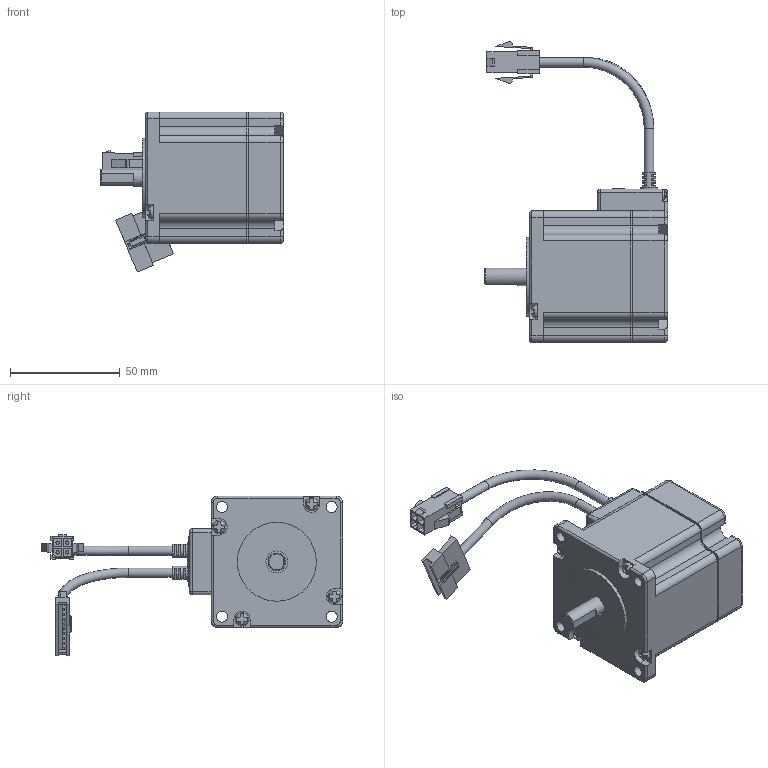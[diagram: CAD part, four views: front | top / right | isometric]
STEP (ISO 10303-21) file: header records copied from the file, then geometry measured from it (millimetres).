
FILE_DESCRIPTION(/* description */ (''),/* implementation_level */ '2;1');
FILE_NAME(/* name */ '\\EMN0D5F01\rp_inventor\RP Mechanical Design\Wiley\Updated Models\eCLM-S601F.stp',/* time_stamp */ '2016-10-27T15:53:40-07:00',/* author */ ('JDB'),/* organization */ ('Parker Hannifin Corp'),/* preprocessor_version */ 'ST-DEVELOPER v15.2',/* originating_system */ 'Autodesk Inventor 2014',/* authorisation */ '');
FILE_SCHEMA (('CONFIG_CONTROL_DESIGN'));
Products named in the file (1): eCLM-S601F_sw
Bounding box: 83.6 x 137.41 x 72.95 mm (x, y, z)
Volume: 179635.7 mm3; surface area: 46330 mm2
Topology: 3 solids, 3 shells, 4056 faces, 11792 edges, 7817 vertices
Faces by surface type: plane 3725, cylinder 204, bspline 52, cone 36, torus 27, sphere 12
Full cylindrical faces by diameter (mm): 1 x9, 1.5 x4, 1.6 x4, 2.1 x4, 2.3 x2, 2.4 x7, 3 x2, 3.4 x1, 4 x5, 4.3 x4, 5 x5, 6 x4, 8 x3, 9.2 x1, 10 x2, 17.5 x1, 36 x1
Entity records: 131717 total; most frequent: CARTESIAN_POINT 24946, ORIENTED_EDGE 23348, DIRECTION 20194, EDGE_CURVE 11672, LINE 10814, VECTOR 10814, VERTEX_POINT 7781, AXIS2_PLACEMENT_3D 4690
